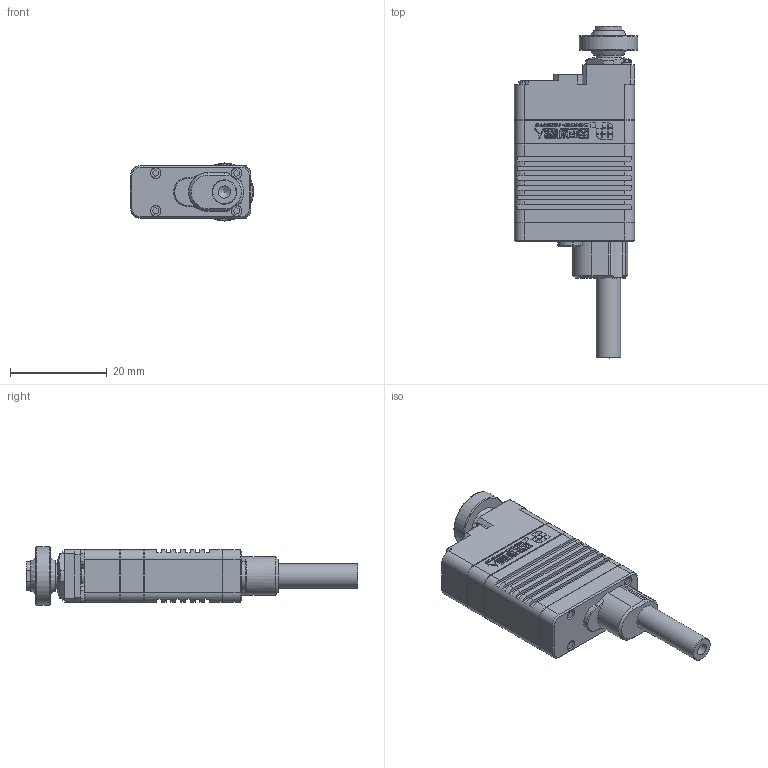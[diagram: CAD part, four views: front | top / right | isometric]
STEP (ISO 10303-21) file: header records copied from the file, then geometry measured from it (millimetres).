
FILE_DESCRIPTION (( 'STEP AP203' ), '1' );
FILE_NAME ('LASF16-0x4D-1201.STEP', '2023-12-01T09:52:35', ( '' ), ( '' ), '' );
FILE_SCHEMA (( 'CONFIG_CONTROL_DESIGN' ));
Length unit declared in the file: millimetre
Products named in the file (4): A820116-015祥凄詩杶奪; LASF16-0x4D-1201; NSK-GE4C外圈; 錨璃14^LASF16-0x4D-GE4C-0.5
Assembly tree (3 placements, depth 2):
  LASF16-0x4D-1201
    A820116-015祥凄詩杶奪
    NSK-GE4C外圈
    錨璃14^LASF16-0x4D-GE4C-0.5
Bounding box: 25.4 x 68.5 x 12 mm (x, y, z)
Volume: 10108.8 mm3; surface area: 5059.6 mm2
Topology: 3 solids, 7 shells, 1382 faces, 3658 edges, 2411 vertices
Faces by surface type: plane 827, bspline 416, cylinder 78, cone 47, torus 12, sphere 2
Full cylindrical faces by diameter (mm): 1.8 x2, 2 x2, 2.05 x1, 2.17 x6, 2.2 x4, 2.4 x3, 2.5 x2, 2.6 x2, 3 x1, 3.3 x1, 4 x2, 5 x3, 12 x1
Entity records: 44746 total; most frequent: CARTESIAN_POINT 13063, ORIENTED_EDGE 7182, DIRECTION 4944, EDGE_CURVE 3591, LINE 2450, VECTOR 2450, VERTEX_POINT 2390, EDGE_LOOP 1555
